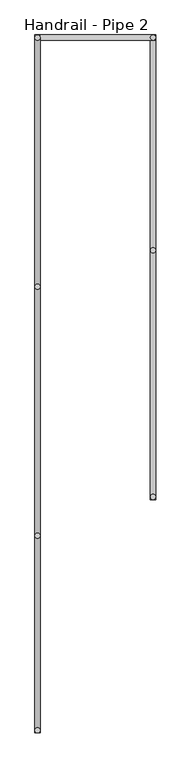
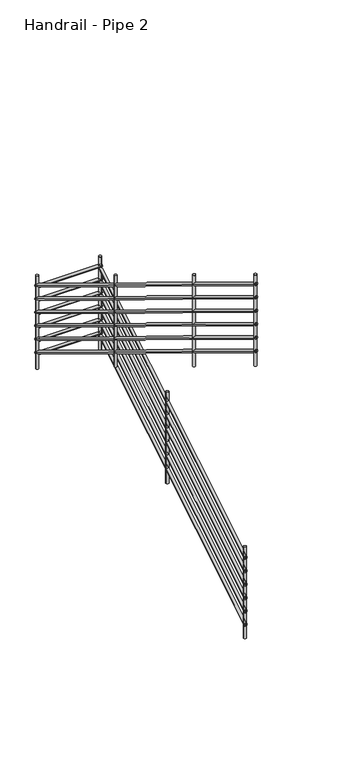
"""IFC4 building model written with IfcOpenShell, lengths in millimetres: railing geometry, Handrail - Pipe 2."""

from ifc_helpers import new_model, si_unit, point, frame, frame_2d, origin, place, context, project, spatial, circle_curve, ellipse_curve, trimmed, segment, composite_curve, outline, extrude, source, transform, mapped, element, save
from ifc_brep_helpers import plane_surface, cylinder_surface, advanced_brep


def handrail_pipe_2_0bb0e65d(model_context):
    return source(origin(), model_context, "Body", "SolidModel", [
        advanced_brep(
        [(2102.2818252, -71.8392054, 946.6982196), (2076.8818252, -71.8392054, 946.6982196), (2102.2818252, 2176.0607946, 2316.8467911), (2076.8818252, 2176.0607946, 2316.8467911)],
        [
            (0, 1, ellipse_curve(frame((2089.5818252, -71.8392054, 946.6982196), z_axis=(0.0, -1.0, 0.0), x_axis=(0.0, 0.0, -1.0)), 14.8732089, 12.7)),
            (1, 0, ellipse_curve(frame((2089.5818252, -71.8392054, 946.6982196), z_axis=(0.0, -1.0, 0.0), x_axis=(0.0, 0.0, -1.0)), 14.8732089, 12.7)),
            (2, 3, ellipse_curve(frame((2089.5818252, 2176.0607946, 2316.8467911), z_axis=(0.0, 1.0, 0.0), x_axis=(0.0, 0.0, -1.0)), 14.8732089, 12.7)),
            (3, 2, ellipse_curve(frame((2089.5818252, 2176.0607946, 2316.8467911), z_axis=(0.0, 1.0, 0.0), x_axis=(0.0, 0.0, -1.0)), 14.8732089, 12.7)),
            (0, 2),
            (3, 1),
        ],
        [
            plane_surface(frame((2089.5818252, -71.8392054, 961.5714286), z_axis=(0.0, -1.0, 0.0), x_axis=(0.0, 0.0, 1.0))),
            plane_surface(frame((2089.5818252, 2176.0607946, 2331.72), z_axis=(0.0, 1.0, 0.0), x_axis=(0.0, 0.0, 1.0))),
            cylinder_surface(frame((2089.5818252, -65.2293275, 950.7270976), z_axis=(0.0, -0.8538843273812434, -0.5204628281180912), x_axis=(-1.0, 0.0, 0.0)), 12.7),
        ],
        [
            (0, [[1, 2]]),
            (1, [[3, 4]]),
            (2, [[-1, 5, -4, 6]]),
            (2, [[-2, -6, -3, -5]]),
        ],
    ),
        advanced_brep(
        [(2102.2818252, 2201.4607946, 2342.2428571), (2102.2818252, 2176.0607946, 2342.2428571), (1536.7056157, 2201.4607946, 2342.2428571), (1536.7056157, 2176.0607946, 2342.2428571)],
        [
            (0, 1, circle_curve(frame((2102.2818252, 2188.7607946, 2342.2428571), z_axis=(1.0, 0.0, 0.0), x_axis=(0.0, -1.0, 0.0)), 12.7)),
            (1, 0, circle_curve(frame((2102.2818252, 2188.7607946, 2342.2428571), z_axis=(1.0, 0.0, 0.0), x_axis=(0.0, -1.0, 0.0)), 12.7)),
            (2, 3, circle_curve(frame((1536.7056157, 2188.7607946, 2342.2428571), z_axis=(-1.0, 0.0, 0.0), x_axis=(0.0, -1.0, 0.0)), 12.7)),
            (3, 2, circle_curve(frame((1536.7056157, 2188.7607946, 2342.2428571), z_axis=(-1.0, 0.0, 0.0), x_axis=(0.0, -1.0, 0.0)), 12.7)),
            (0, 2),
            (3, 1),
        ],
        [
            plane_surface(frame((2102.2818252, 2188.7607946, 2354.9428571), z_axis=(1.0, 0.0, 0.0), x_axis=(0.0, -1.0, 0.0))),
            plane_surface(frame((1536.7056157, 2188.7607946, 2354.9428571), z_axis=(-1.0, 0.0, 0.0), x_axis=(0.0, -1.0, 0.0))),
            cylinder_surface(frame((2102.2818252, 2188.7607946, 2342.2428571), z_axis=(1.0, 0.0, 0.0), x_axis=(0.0, -1.0, 0.0)), 12.7),
        ],
        [
            (0, [[1, 2]]),
            (1, [[3, 4]]),
            (2, [[-1, 5, -4, 6]]),
            (2, [[-2, -6, -3, -5]]),
        ],
    ),
        advanced_brep(
        [(1511.3056157, 2201.4607946, 2347.8106006), (1536.7056157, 2201.4607946, 2347.8106006), (1511.3056157, -1214.8392054, 4430.1267911), (1536.7056157, -1214.8392054, 4430.1267911)],
        [
            (0, 1, ellipse_curve(frame((1524.0056157, 2201.4607946, 2347.8106006), z_axis=(0.0, 1.0, 0.0), x_axis=(0.0, 0.0, -1.0)), 14.8732089, 12.7)),
            (1, 0, ellipse_curve(frame((1524.0056157, 2201.4607946, 2347.8106006), z_axis=(0.0, 1.0, 0.0), x_axis=(0.0, 0.0, -1.0)), 14.8732089, 12.7)),
            (2, 3, ellipse_curve(frame((1524.0056157, -1214.8392054, 4430.1267911), z_axis=(0.0, -1.0, 0.0), x_axis=(0.0, 0.0, -1.0)), 14.8732089, 12.7)),
            (3, 2, ellipse_curve(frame((1524.0056157, -1214.8392054, 4430.1267911), z_axis=(0.0, -1.0, 0.0), x_axis=(0.0, 0.0, -1.0)), 14.8732089, 12.7)),
            (0, 2),
            (3, 1),
        ],
        [
            plane_surface(frame((1524.0056157, 2201.4607946, 2362.6838095), z_axis=(0.0, 1.0, 0.0), x_axis=(0.0, 0.0, -1.0))),
            plane_surface(frame((1524.0056157, -1214.8392054, 4445.0), z_axis=(0.0, -1.0, 0.0), x_axis=(0.0, 0.0, -1.0))),
            cylinder_surface(frame((1524.0056157, 2194.8509167, 2351.8394786), z_axis=(0.0, 0.8538843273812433, -0.5204628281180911), x_axis=(1.0, 0.0, 0.0)), 12.7),
        ],
        [
            (0, [[1, 2]]),
            (1, [[3, 4]]),
            (2, [[-1, 5, -4, 6]]),
            (2, [[-2, -6, -3, -5]]),
        ],
    ),
        advanced_brep(
        [(2102.2818252, -71.8392054, 819.6982196), (2076.8818252, -71.8392054, 819.6982196), (2102.2818252, 2176.0607946, 2189.8467911), (2076.8818252, 2176.0607946, 2189.8467911)],
        [
            (0, 1, ellipse_curve(frame((2089.5818252, -71.8392054, 819.6982196), z_axis=(0.0, -1.0, 0.0), x_axis=(0.0, 0.0, -1.0)), 14.8732089, 12.7)),
            (1, 0, ellipse_curve(frame((2089.5818252, -71.8392054, 819.6982196), z_axis=(0.0, -1.0, 0.0), x_axis=(0.0, 0.0, -1.0)), 14.8732089, 12.7)),
            (2, 3, ellipse_curve(frame((2089.5818252, 2176.0607946, 2189.8467911), z_axis=(0.0, 1.0, 0.0), x_axis=(0.0, 0.0, -1.0)), 14.8732089, 12.7)),
            (3, 2, ellipse_curve(frame((2089.5818252, 2176.0607946, 2189.8467911), z_axis=(0.0, 1.0, 0.0), x_axis=(0.0, 0.0, -1.0)), 14.8732089, 12.7)),
            (0, 2),
            (3, 1),
        ],
        [
            plane_surface(frame((2089.5818252, -71.8392054, 834.5714286), z_axis=(0.0, -1.0, 0.0), x_axis=(0.0, 0.0, 1.0))),
            plane_surface(frame((2089.5818252, 2176.0607946, 2204.72), z_axis=(0.0, 1.0, 0.0), x_axis=(0.0, 0.0, 1.0))),
            cylinder_surface(frame((2089.5818252, -65.2293275, 823.7270976), z_axis=(0.0, -0.8538843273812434, -0.5204628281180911), x_axis=(-1.0, 0.0, 0.0)), 12.7),
        ],
        [
            (0, [[1, 2]]),
            (1, [[3, 4]]),
            (2, [[-1, 5, -4, 6]]),
            (2, [[-2, -6, -3, -5]]),
        ],
    ),
        advanced_brep(
        [(2102.2818252, 2201.4607946, 2215.2428571), (2102.2818252, 2176.0607946, 2215.2428571), (1536.7056157, 2201.4607946, 2215.2428571), (1536.7056157, 2176.0607946, 2215.2428571)],
        [
            (0, 1, circle_curve(frame((2102.2818252, 2188.7607946, 2215.2428571), z_axis=(1.0, 0.0, 0.0), x_axis=(0.0, -1.0, 0.0)), 12.7)),
            (1, 0, circle_curve(frame((2102.2818252, 2188.7607946, 2215.2428571), z_axis=(1.0, 0.0, 0.0), x_axis=(0.0, -1.0, 0.0)), 12.7)),
            (2, 3, circle_curve(frame((1536.7056157, 2188.7607946, 2215.2428571), z_axis=(-1.0, 0.0, 0.0), x_axis=(0.0, -1.0, 0.0)), 12.7)),
            (3, 2, circle_curve(frame((1536.7056157, 2188.7607946, 2215.2428571), z_axis=(-1.0, 0.0, 0.0), x_axis=(0.0, -1.0, 0.0)), 12.7)),
            (0, 2),
            (3, 1),
        ],
        [
            plane_surface(frame((2102.2818252, 2188.7607946, 2227.9428571), z_axis=(1.0, 0.0, 0.0), x_axis=(0.0, -1.0, 0.0))),
            plane_surface(frame((1536.7056157, 2188.7607946, 2227.9428571), z_axis=(-1.0, 0.0, 0.0), x_axis=(0.0, -1.0, 0.0))),
            cylinder_surface(frame((2102.2818252, 2188.7607946, 2215.2428571), z_axis=(1.0, 0.0, 0.0), x_axis=(0.0, -1.0, 0.0)), 12.7),
        ],
        [
            (0, [[1, 2]]),
            (1, [[3, 4]]),
            (2, [[-1, 5, -4, 6]]),
            (2, [[-2, -6, -3, -5]]),
        ],
    ),
        advanced_brep(
        [(1511.3056157, 2201.4607946, 2220.8106006), (1536.7056157, 2201.4607946, 2220.8106006), (1511.3056157, -1214.8392054, 4303.1267911), (1536.7056157, -1214.8392054, 4303.1267911)],
        [
            (0, 1, ellipse_curve(frame((1524.0056157, 2201.4607946, 2220.8106006), z_axis=(0.0, 1.0, 0.0), x_axis=(0.0, 0.0, -1.0)), 14.8732089, 12.7)),
            (1, 0, ellipse_curve(frame((1524.0056157, 2201.4607946, 2220.8106006), z_axis=(0.0, 1.0, 0.0), x_axis=(0.0, 0.0, -1.0)), 14.8732089, 12.7)),
            (2, 3, ellipse_curve(frame((1524.0056157, -1214.8392054, 4303.1267911), z_axis=(0.0, -1.0, 0.0), x_axis=(0.0, 0.0, -1.0)), 14.8732089, 12.7)),
            (3, 2, ellipse_curve(frame((1524.0056157, -1214.8392054, 4303.1267911), z_axis=(0.0, -1.0, 0.0), x_axis=(0.0, 0.0, -1.0)), 14.8732089, 12.7)),
            (0, 2),
            (3, 1),
        ],
        [
            plane_surface(frame((1524.0056157, 2201.4607946, 2235.6838095), z_axis=(0.0, 1.0, 0.0), x_axis=(0.0, 0.0, -1.0))),
            plane_surface(frame((1524.0056157, -1214.8392054, 4318.0), z_axis=(0.0, -1.0, 0.0), x_axis=(0.0, 0.0, -1.0))),
            cylinder_surface(frame((1524.0056157, 2194.8509167, 2224.8394786), z_axis=(0.0, 0.8538843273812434, -0.5204628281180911), x_axis=(1.0, 0.0, 0.0)), 12.7),
        ],
        [
            (0, [[1, 2]]),
            (1, [[3, 4]]),
            (2, [[-1, 5, -4, 6]]),
            (2, [[-2, -6, -3, -5]]),
        ],
    ),
        advanced_brep(
        [(2102.2818252, -71.8392054, 692.6982196), (2076.8818252, -71.8392054, 692.6982196), (2102.2818252, 2176.0607946, 2062.8467911), (2076.8818252, 2176.0607946, 2062.8467911)],
        [
            (0, 1, ellipse_curve(frame((2089.5818252, -71.8392054, 692.6982196), z_axis=(0.0, -1.0, 0.0), x_axis=(0.0, 0.0, -1.0)), 14.8732089, 12.7)),
            (1, 0, ellipse_curve(frame((2089.5818252, -71.8392054, 692.6982196), z_axis=(0.0, -1.0, 0.0), x_axis=(0.0, 0.0, -1.0)), 14.8732089, 12.7)),
            (2, 3, ellipse_curve(frame((2089.5818252, 2176.0607946, 2062.8467911), z_axis=(0.0, 1.0, 0.0), x_axis=(0.0, 0.0, -1.0)), 14.8732089, 12.7)),
            (3, 2, ellipse_curve(frame((2089.5818252, 2176.0607946, 2062.8467911), z_axis=(0.0, 1.0, 0.0), x_axis=(0.0, 0.0, -1.0)), 14.8732089, 12.7)),
            (0, 2),
            (3, 1),
        ],
        [
            plane_surface(frame((2089.5818252, -71.8392054, 707.5714286), z_axis=(0.0, -1.0, 0.0), x_axis=(0.0, 0.0, 1.0))),
            plane_surface(frame((2089.5818252, 2176.0607946, 2077.72), z_axis=(0.0, 1.0, 0.0), x_axis=(0.0, 0.0, 1.0))),
            cylinder_surface(frame((2089.5818252, -65.2293275, 696.7270976), z_axis=(0.0, -0.8538843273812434, -0.5204628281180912), x_axis=(-1.0, 0.0, 0.0)), 12.7),
        ],
        [
            (0, [[1, 2]]),
            (1, [[3, 4]]),
            (2, [[-1, 5, -4, 6]]),
            (2, [[-2, -6, -3, -5]]),
        ],
    ),
        advanced_brep(
        [(2102.2818252, 2201.4607946, 2088.2428571), (2102.2818252, 2176.0607946, 2088.2428571), (1536.7056157, 2201.4607946, 2088.2428571), (1536.7056157, 2176.0607946, 2088.2428571)],
        [
            (0, 1, circle_curve(frame((2102.2818252, 2188.7607946, 2088.2428571), z_axis=(1.0, 0.0, 0.0), x_axis=(0.0, -1.0, 0.0)), 12.7)),
            (1, 0, circle_curve(frame((2102.2818252, 2188.7607946, 2088.2428571), z_axis=(1.0, 0.0, 0.0), x_axis=(0.0, -1.0, 0.0)), 12.7)),
            (2, 3, circle_curve(frame((1536.7056157, 2188.7607946, 2088.2428571), z_axis=(-1.0, 0.0, 0.0), x_axis=(0.0, -1.0, 0.0)), 12.7)),
            (3, 2, circle_curve(frame((1536.7056157, 2188.7607946, 2088.2428571), z_axis=(-1.0, 0.0, 0.0), x_axis=(0.0, -1.0, 0.0)), 12.7)),
            (0, 2),
            (3, 1),
        ],
        [
            plane_surface(frame((2102.2818252, 2188.7607946, 2100.9428571), z_axis=(1.0, 0.0, 0.0), x_axis=(0.0, -1.0, 0.0))),
            plane_surface(frame((1536.7056157, 2188.7607946, 2100.9428571), z_axis=(-1.0, 0.0, 0.0), x_axis=(0.0, -1.0, 0.0))),
            cylinder_surface(frame((2102.2818252, 2188.7607946, 2088.2428571), z_axis=(1.0, 0.0, 0.0), x_axis=(0.0, -1.0, 0.0)), 12.7),
        ],
        [
            (0, [[1, 2]]),
            (1, [[3, 4]]),
            (2, [[-1, 5, -4, 6]]),
            (2, [[-2, -6, -3, -5]]),
        ],
    ),
        advanced_brep(
        [(1511.3056157, 2201.4607946, 2093.8106006), (1536.7056157, 2201.4607946, 2093.8106006), (1511.3056157, -1214.8392054, 4176.1267911), (1536.7056157, -1214.8392054, 4176.1267911)],
        [
            (0, 1, ellipse_curve(frame((1524.0056157, 2201.4607946, 2093.8106006), z_axis=(0.0, 1.0, 0.0), x_axis=(0.0, 0.0, -1.0)), 14.8732089, 12.7)),
            (1, 0, ellipse_curve(frame((1524.0056157, 2201.4607946, 2093.8106006), z_axis=(0.0, 1.0, 0.0), x_axis=(0.0, 0.0, -1.0)), 14.8732089, 12.7)),
            (2, 3, ellipse_curve(frame((1524.0056157, -1214.8392054, 4176.1267911), z_axis=(0.0, -1.0, 0.0), x_axis=(0.0, 0.0, -1.0)), 14.8732089, 12.7)),
            (3, 2, ellipse_curve(frame((1524.0056157, -1214.8392054, 4176.1267911), z_axis=(0.0, -1.0, 0.0), x_axis=(0.0, 0.0, -1.0)), 14.8732089, 12.7)),
            (0, 2),
            (3, 1),
        ],
        [
            plane_surface(frame((1524.0056157, 2201.4607946, 2108.6838095), z_axis=(0.0, 1.0, 0.0), x_axis=(0.0, 0.0, -1.0))),
            plane_surface(frame((1524.0056157, -1214.8392054, 4191.0), z_axis=(0.0, -1.0, 0.0), x_axis=(0.0, 0.0, -1.0))),
            cylinder_surface(frame((1524.0056157, 2194.8509167, 2097.8394786), z_axis=(0.0, 0.8538843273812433, -0.5204628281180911), x_axis=(1.0, 0.0, 0.0)), 12.7),
        ],
        [
            (0, [[1, 2]]),
            (1, [[3, 4]]),
            (2, [[-1, 5, -4, 6]]),
            (2, [[-2, -6, -3, -5]]),
        ],
    ),
        advanced_brep(
        [(2102.2818252, -71.8392054, 565.6982196), (2076.8818252, -71.8392054, 565.6982196), (2102.2818252, 2176.0607946, 1935.8467911), (2076.8818252, 2176.0607946, 1935.8467911)],
        [
            (0, 1, ellipse_curve(frame((2089.5818252, -71.8392054, 565.6982196), z_axis=(0.0, -1.0, 0.0), x_axis=(0.0, 0.0, -1.0)), 14.8732089, 12.7)),
            (1, 0, ellipse_curve(frame((2089.5818252, -71.8392054, 565.6982196), z_axis=(0.0, -1.0, 0.0), x_axis=(0.0, 0.0, -1.0)), 14.8732089, 12.7)),
            (2, 3, ellipse_curve(frame((2089.5818252, 2176.0607946, 1935.8467911), z_axis=(0.0, 1.0, 0.0), x_axis=(0.0, 0.0, -1.0)), 14.8732089, 12.7)),
            (3, 2, ellipse_curve(frame((2089.5818252, 2176.0607946, 1935.8467911), z_axis=(0.0, 1.0, 0.0), x_axis=(0.0, 0.0, -1.0)), 14.8732089, 12.7)),
            (0, 2),
            (3, 1),
        ],
        [
            plane_surface(frame((2089.5818252, -71.8392054, 580.5714286), z_axis=(0.0, -1.0, 0.0), x_axis=(0.0, 0.0, 1.0))),
            plane_surface(frame((2089.5818252, 2176.0607946, 1950.72), z_axis=(0.0, 1.0, 0.0), x_axis=(0.0, 0.0, 1.0))),
            cylinder_surface(frame((2089.5818252, -65.2293275, 569.7270976), z_axis=(0.0, -0.8538843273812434, -0.5204628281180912), x_axis=(-1.0, 0.0, 0.0)), 12.7),
        ],
        [
            (0, [[1, 2]]),
            (1, [[3, 4]]),
            (2, [[-1, 5, -4, 6]]),
            (2, [[-2, -6, -3, -5]]),
        ],
    ),
        advanced_brep(
        [(2102.2818252, 2201.4607946, 1961.2428571), (2102.2818252, 2176.0607946, 1961.2428571), (1536.7056157, 2201.4607946, 1961.2428571), (1536.7056157, 2176.0607946, 1961.2428571)],
        [
            (0, 1, circle_curve(frame((2102.2818252, 2188.7607946, 1961.2428571), z_axis=(1.0, 0.0, 0.0), x_axis=(0.0, -1.0, 0.0)), 12.7)),
            (1, 0, circle_curve(frame((2102.2818252, 2188.7607946, 1961.2428571), z_axis=(1.0, 0.0, 0.0), x_axis=(0.0, -1.0, 0.0)), 12.7)),
            (2, 3, circle_curve(frame((1536.7056157, 2188.7607946, 1961.2428571), z_axis=(-1.0, 0.0, 0.0), x_axis=(0.0, -1.0, 0.0)), 12.7)),
            (3, 2, circle_curve(frame((1536.7056157, 2188.7607946, 1961.2428571), z_axis=(-1.0, 0.0, 0.0), x_axis=(0.0, -1.0, 0.0)), 12.7)),
            (0, 2),
            (3, 1),
        ],
        [
            plane_surface(frame((2102.2818252, 2188.7607946, 1973.9428571), z_axis=(1.0, 0.0, 0.0), x_axis=(0.0, -1.0, 0.0))),
            plane_surface(frame((1536.7056157, 2188.7607946, 1973.9428571), z_axis=(-1.0, 0.0, 0.0), x_axis=(0.0, -1.0, 0.0))),
            cylinder_surface(frame((2102.2818252, 2188.7607946, 1961.2428571), z_axis=(1.0, 0.0, 0.0), x_axis=(0.0, -1.0, 0.0)), 12.7),
        ],
        [
            (0, [[1, 2]]),
            (1, [[3, 4]]),
            (2, [[-1, 5, -4, 6]]),
            (2, [[-2, -6, -3, -5]]),
        ],
    ),
        advanced_brep(
        [(1511.3056157, 2201.4607946, 1966.8106006), (1536.7056157, 2201.4607946, 1966.8106006), (1511.3056157, -1214.8392054, 4049.1267911), (1536.7056157, -1214.8392054, 4049.1267911)],
        [
            (0, 1, ellipse_curve(frame((1524.0056157, 2201.4607946, 1966.8106006), z_axis=(0.0, 1.0, 0.0), x_axis=(0.0, 0.0, -1.0)), 14.8732089, 12.7)),
            (1, 0, ellipse_curve(frame((1524.0056157, 2201.4607946, 1966.8106006), z_axis=(0.0, 1.0, 0.0), x_axis=(0.0, 0.0, -1.0)), 14.8732089, 12.7)),
            (2, 3, ellipse_curve(frame((1524.0056157, -1214.8392054, 4049.1267911), z_axis=(0.0, -1.0, 0.0), x_axis=(0.0, 0.0, -1.0)), 14.8732089, 12.7)),
            (3, 2, ellipse_curve(frame((1524.0056157, -1214.8392054, 4049.1267911), z_axis=(0.0, -1.0, 0.0), x_axis=(0.0, 0.0, -1.0)), 14.8732089, 12.7)),
            (0, 2),
            (3, 1),
        ],
        [
            plane_surface(frame((1524.0056157, 2201.4607946, 1981.6838095), z_axis=(0.0, 1.0, 0.0), x_axis=(0.0, 0.0, -1.0))),
            plane_surface(frame((1524.0056157, -1214.8392054, 4064.0), z_axis=(0.0, -1.0, 0.0), x_axis=(0.0, 0.0, -1.0))),
            cylinder_surface(frame((1524.0056157, 2194.8509167, 1970.8394786), z_axis=(0.0, 0.8538843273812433, -0.5204628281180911), x_axis=(1.0, 0.0, 0.0)), 12.7),
        ],
        [
            (0, [[1, 2]]),
            (1, [[3, 4]]),
            (2, [[-1, 5, -4, 6]]),
            (2, [[-2, -6, -3, -5]]),
        ],
    ),
        advanced_brep(
        [(2102.2818252, -71.8392054, 438.6982196), (2076.8818252, -71.8392054, 438.6982196), (2102.2818252, 2176.0607946, 1808.8467911), (2076.8818252, 2176.0607946, 1808.8467911)],
        [
            (0, 1, ellipse_curve(frame((2089.5818252, -71.8392054, 438.6982196), z_axis=(0.0, -1.0, 0.0), x_axis=(0.0, 0.0, -1.0)), 14.8732089, 12.7)),
            (1, 0, ellipse_curve(frame((2089.5818252, -71.8392054, 438.6982196), z_axis=(0.0, -1.0, 0.0), x_axis=(0.0, 0.0, -1.0)), 14.8732089, 12.7)),
            (2, 3, ellipse_curve(frame((2089.5818252, 2176.0607946, 1808.8467911), z_axis=(0.0, 1.0, 0.0), x_axis=(0.0, 0.0, -1.0)), 14.8732089, 12.7)),
            (3, 2, ellipse_curve(frame((2089.5818252, 2176.0607946, 1808.8467911), z_axis=(0.0, 1.0, 0.0), x_axis=(0.0, 0.0, -1.0)), 14.8732089, 12.7)),
            (0, 2),
            (3, 1),
        ],
        [
            plane_surface(frame((2089.5818252, -71.8392054, 453.5714286), z_axis=(0.0, -1.0, 0.0), x_axis=(0.0, 0.0, 1.0))),
            plane_surface(frame((2089.5818252, 2176.0607946, 1823.72), z_axis=(0.0, 1.0, 0.0), x_axis=(0.0, 0.0, 1.0))),
            cylinder_surface(frame((2089.5818252, -65.2293275, 442.7270976), z_axis=(0.0, -0.8538843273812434, -0.5204628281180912), x_axis=(-1.0, 0.0, 0.0)), 12.7),
        ],
        [
            (0, [[1, 2]]),
            (1, [[3, 4]]),
            (2, [[-1, 5, -4, 6]]),
            (2, [[-2, -6, -3, -5]]),
        ],
    ),
        advanced_brep(
        [(2102.2818252, 2201.4607946, 1834.2428571), (2102.2818252, 2176.0607946, 1834.2428571), (1536.7056157, 2201.4607946, 1834.2428571), (1536.7056157, 2176.0607946, 1834.2428571)],
        [
            (0, 1, circle_curve(frame((2102.2818252, 2188.7607946, 1834.2428571), z_axis=(1.0, 0.0, 0.0), x_axis=(0.0, -1.0, 0.0)), 12.7)),
            (1, 0, circle_curve(frame((2102.2818252, 2188.7607946, 1834.2428571), z_axis=(1.0, 0.0, 0.0), x_axis=(0.0, -1.0, 0.0)), 12.7)),
            (2, 3, circle_curve(frame((1536.7056157, 2188.7607946, 1834.2428571), z_axis=(-1.0, 0.0, 0.0), x_axis=(0.0, -1.0, 0.0)), 12.7)),
            (3, 2, circle_curve(frame((1536.7056157, 2188.7607946, 1834.2428571), z_axis=(-1.0, 0.0, 0.0), x_axis=(0.0, -1.0, 0.0)), 12.7)),
            (0, 2),
            (3, 1),
        ],
        [
            plane_surface(frame((2102.2818252, 2188.7607946, 1846.9428571), z_axis=(1.0, 0.0, 0.0), x_axis=(0.0, -1.0, 0.0))),
            plane_surface(frame((1536.7056157, 2188.7607946, 1846.9428571), z_axis=(-1.0, 0.0, 0.0), x_axis=(0.0, -1.0, 0.0))),
            cylinder_surface(frame((2102.2818252, 2188.7607946, 1834.2428571), z_axis=(1.0, 0.0, 0.0), x_axis=(0.0, -1.0, 0.0)), 12.7),
        ],
        [
            (0, [[1, 2]]),
            (1, [[3, 4]]),
            (2, [[-1, 5, -4, 6]]),
            (2, [[-2, -6, -3, -5]]),
        ],
    ),
        advanced_brep(
        [(1511.3056157, 2201.4607946, 1839.8106006), (1536.7056157, 2201.4607946, 1839.8106006), (1511.3056157, -1214.8392054, 3922.1267911), (1536.7056157, -1214.8392054, 3922.1267911)],
        [
            (0, 1, ellipse_curve(frame((1524.0056157, 2201.4607946, 1839.8106006), z_axis=(0.0, 1.0, 0.0), x_axis=(0.0, 0.0, -1.0)), 14.8732089, 12.7)),
            (1, 0, ellipse_curve(frame((1524.0056157, 2201.4607946, 1839.8106006), z_axis=(0.0, 1.0, 0.0), x_axis=(0.0, 0.0, -1.0)), 14.8732089, 12.7)),
            (2, 3, ellipse_curve(frame((1524.0056157, -1214.8392054, 3922.1267911), z_axis=(0.0, -1.0, 0.0), x_axis=(0.0, 0.0, -1.0)), 14.8732089, 12.7)),
            (3, 2, ellipse_curve(frame((1524.0056157, -1214.8392054, 3922.1267911), z_axis=(0.0, -1.0, 0.0), x_axis=(0.0, 0.0, -1.0)), 14.8732089, 12.7)),
            (0, 2),
            (3, 1),
        ],
        [
            plane_surface(frame((1524.0056157, 2201.4607946, 1854.6838095), z_axis=(0.0, 1.0, 0.0), x_axis=(0.0, 0.0, -1.0))),
            plane_surface(frame((1524.0056157, -1214.8392054, 3937.0), z_axis=(0.0, -1.0, 0.0), x_axis=(0.0, 0.0, -1.0))),
            cylinder_surface(frame((1524.0056157, 2194.8509167, 1843.8394786), z_axis=(0.0, 0.8538843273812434, -0.5204628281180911), x_axis=(1.0, 0.0, 0.0)), 12.7),
        ],
        [
            (0, [[1, 2]]),
            (1, [[3, 4]]),
            (2, [[-1, 5, -4, 6]]),
            (2, [[-2, -6, -3, -5]]),
        ],
    ),
        advanced_brep(
        [(2102.2818252, -71.8392054, 311.6982196), (2076.8818252, -71.8392054, 311.6982196), (2102.2818252, 2176.0607946, 1681.8467911), (2076.8818252, 2176.0607946, 1681.8467911)],
        [
            (0, 1, ellipse_curve(frame((2089.5818252, -71.8392054, 311.6982196), z_axis=(0.0, -1.0, 0.0), x_axis=(0.0, 0.0, -1.0)), 14.8732089, 12.7)),
            (1, 0, ellipse_curve(frame((2089.5818252, -71.8392054, 311.6982196), z_axis=(0.0, -1.0, 0.0), x_axis=(0.0, 0.0, -1.0)), 14.8732089, 12.7)),
            (2, 3, ellipse_curve(frame((2089.5818252, 2176.0607946, 1681.8467911), z_axis=(0.0, 1.0, 0.0), x_axis=(0.0, 0.0, -1.0)), 14.8732089, 12.7)),
            (3, 2, ellipse_curve(frame((2089.5818252, 2176.0607946, 1681.8467911), z_axis=(0.0, 1.0, 0.0), x_axis=(0.0, 0.0, -1.0)), 14.8732089, 12.7)),
            (0, 2),
            (3, 1),
        ],
        [
            plane_surface(frame((2089.5818252, -71.8392054, 326.5714286), z_axis=(0.0, -1.0, 0.0), x_axis=(0.0, 0.0, 1.0))),
            plane_surface(frame((2089.5818252, 2176.0607946, 1696.72), z_axis=(0.0, 1.0, 0.0), x_axis=(0.0, 0.0, 1.0))),
            cylinder_surface(frame((2089.5818252, -65.2293275, 315.7270976), z_axis=(0.0, -0.8538843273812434, -0.5204628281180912), x_axis=(-1.0, 0.0, 0.0)), 12.7),
        ],
        [
            (0, [[1, 2]]),
            (1, [[3, 4]]),
            (2, [[-1, 5, -4, 6]]),
            (2, [[-2, -6, -3, -5]]),
        ],
    ),
        advanced_brep(
        [(2102.2818252, 2201.4607946, 1707.2428571), (2102.2818252, 2176.0607946, 1707.2428571), (1536.7056157, 2201.4607946, 1707.2428571), (1536.7056157, 2176.0607946, 1707.2428571)],
        [
            (0, 1, circle_curve(frame((2102.2818252, 2188.7607946, 1707.2428571), z_axis=(1.0, 0.0, 0.0), x_axis=(0.0, -1.0, 0.0)), 12.7)),
            (1, 0, circle_curve(frame((2102.2818252, 2188.7607946, 1707.2428571), z_axis=(1.0, 0.0, 0.0), x_axis=(0.0, -1.0, 0.0)), 12.7)),
            (2, 3, circle_curve(frame((1536.7056157, 2188.7607946, 1707.2428571), z_axis=(-1.0, 0.0, 0.0), x_axis=(0.0, -1.0, 0.0)), 12.7)),
            (3, 2, circle_curve(frame((1536.7056157, 2188.7607946, 1707.2428571), z_axis=(-1.0, 0.0, 0.0), x_axis=(0.0, -1.0, 0.0)), 12.7)),
            (0, 2),
            (3, 1),
        ],
        [
            plane_surface(frame((2102.2818252, 2188.7607946, 1719.9428571), z_axis=(1.0, 0.0, 0.0), x_axis=(0.0, -1.0, 0.0))),
            plane_surface(frame((1536.7056157, 2188.7607946, 1719.9428571), z_axis=(-1.0, 0.0, 0.0), x_axis=(0.0, -1.0, 0.0))),
            cylinder_surface(frame((2102.2818252, 2188.7607946, 1707.2428571), z_axis=(1.0, 0.0, 0.0), x_axis=(0.0, -1.0, 0.0)), 12.7),
        ],
        [
            (0, [[1, 2]]),
            (1, [[3, 4]]),
            (2, [[-1, 5, -4, 6]]),
            (2, [[-2, -6, -3, -5]]),
        ],
    ),
        advanced_brep(
        [(1511.3056157, 2201.4607946, 1712.8106006), (1536.7056157, 2201.4607946, 1712.8106006), (1511.3056157, -1214.8392054, 3795.1267911), (1536.7056157, -1214.8392054, 3795.1267911)],
        [
            (0, 1, ellipse_curve(frame((1524.0056157, 2201.4607946, 1712.8106006), z_axis=(0.0, 1.0, 0.0), x_axis=(0.0, 0.0, -1.0)), 14.8732089, 12.7)),
            (1, 0, ellipse_curve(frame((1524.0056157, 2201.4607946, 1712.8106006), z_axis=(0.0, 1.0, 0.0), x_axis=(0.0, 0.0, -1.0)), 14.8732089, 12.7)),
            (2, 3, ellipse_curve(frame((1524.0056157, -1214.8392054, 3795.1267911), z_axis=(0.0, -1.0, 0.0), x_axis=(0.0, 0.0, -1.0)), 14.8732089, 12.7)),
            (3, 2, ellipse_curve(frame((1524.0056157, -1214.8392054, 3795.1267911), z_axis=(0.0, -1.0, 0.0), x_axis=(0.0, 0.0, -1.0)), 14.8732089, 12.7)),
            (0, 2),
            (3, 1),
        ],
        [
            plane_surface(frame((1524.0056157, 2201.4607946, 1727.6838095), z_axis=(0.0, 1.0, 0.0), x_axis=(0.0, 0.0, -1.0))),
            plane_surface(frame((1524.0056157, -1214.8392054, 3810.0), z_axis=(0.0, -1.0, 0.0), x_axis=(0.0, 0.0, -1.0))),
            cylinder_surface(frame((1524.0056157, 2194.8509167, 1716.8394786), z_axis=(0.0, 0.8538843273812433, -0.5204628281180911), x_axis=(1.0, 0.0, 0.0)), 12.7),
        ],
        [
            (0, [[1, 2]]),
            (1, [[3, 4]]),
            (2, [[-1, 5, -4, 6]]),
            (2, [[-2, -6, -3, -5]]),
        ],
    ),
        extrude(outline(composite_curve([segment(trimmed(circle_curve(frame_2d((1524.0056157, -249.6392054)), 12.7), [point((1511.3056157, -249.6392054))], [point((1536.7056157, -249.6392054))], False, "CARTESIAN"), True, "CONTINUOUS"), segment(trimmed(circle_curve(frame_2d((1524.0056157, -249.6392054)), 12.7), [point((1536.7056157, -249.6392054))], [point((1511.3056157, -249.6392054))], False, "CARTESIAN"), True, "CONTINUOUS")], self_intersect=False)), frame((0.0, 0.0, 3069.287619), z_axis=(0.0, 0.0, 1.0), x_axis=(1.0, 0.0, 0.0)), (0.0, 0.0, 1.0), 863.6),
        extrude(outline(composite_curve([segment(trimmed(circle_curve(frame_2d((1524.0056157, 969.5607946)), 12.7), [point((1511.3056157, 969.5607946))], [point((1536.7056157, 969.5607946))], False, "CARTESIAN"), True, "CONTINUOUS"), segment(trimmed(circle_curve(frame_2d((1524.0056157, 969.5607946)), 12.7), [point((1536.7056157, 969.5607946))], [point((1511.3056157, 969.5607946))], False, "CARTESIAN"), True, "CONTINUOUS")], self_intersect=False)), frame((0.0, 0.0, 2326.1561905), z_axis=(0.0, 0.0, 1.0), x_axis=(1.0, 0.0, 0.0)), (0.0, 0.0, 1.0), 863.6),
        extrude(outline(composite_curve([segment(trimmed(circle_curve(frame_2d((2089.5818252, 1147.3607946)), 12.7), [point((2102.2818252, 1147.3607946))], [point((2076.8818252, 1147.3607946))], False, "CARTESIAN"), True, "CONTINUOUS"), segment(trimmed(circle_curve(frame_2d((2089.5818252, 1147.3607946)), 12.7), [point((2076.8818252, 1147.3607946))], [point((2102.2818252, 1147.3607946))], False, "CARTESIAN"), True, "CONTINUOUS")], self_intersect=False)), frame((0.0, 0.0, 917.3028571), z_axis=(0.0, 0.0, 1.0), x_axis=(1.0, 0.0, 0.0)), (0.0, 0.0, 1.0), 863.6),
        extrude(outline(composite_curve([segment(trimmed(circle_curve(frame_2d((1524.0056157, 2188.7607946)), 12.7), [point((1511.3056157, 2188.7607946))], [point((1536.7056157, 2188.7607946))], False, "CARTESIAN"), True, "CONTINUOUS"), segment(trimmed(circle_curve(frame_2d((1524.0056157, 2188.7607946)), 12.7), [point((1536.7056157, 2188.7607946))], [point((1511.3056157, 2188.7607946))], False, "CARTESIAN"), True, "CONTINUOUS")], self_intersect=False)), frame((0.0, 0.0, 1567.5428571), z_axis=(0.0, 0.0, 1.0), x_axis=(1.0, 0.0, 0.0)), (0.0, 0.0, 1.0), 879.0819048),
        extrude(outline(composite_curve([segment(trimmed(circle_curve(frame_2d((2089.5818252, 2188.7607946)), 12.7), [point((2089.5818252, 2201.4607946))], [point((2089.5818252, 2176.0607946))], False, "CARTESIAN"), True, "CONTINUOUS"), segment(trimmed(circle_curve(frame_2d((2089.5818252, 2188.7607946)), 12.7), [point((2089.5818252, 2176.0607946))], [point((2089.5818252, 2201.4607946))], False, "CARTESIAN"), True, "CONTINUOUS")], self_intersect=False)), frame((0.0, 0.0, 1552.0609524), z_axis=(0.0, 0.0, 1.0), x_axis=(1.0, 0.0, 0.0)), (0.0, 0.0, 1.0), 879.0819048),
        extrude(outline(composite_curve([segment(trimmed(circle_curve(frame_2d((1524.0056157, -1202.1392054)), 12.7), [point((1511.3056157, -1202.1392054))], [point((1536.7056157, -1202.1392054))], False, "CARTESIAN"), True, "CONTINUOUS"), segment(trimmed(circle_curve(frame_2d((1524.0056157, -1202.1392054)), 12.7), [point((1536.7056157, -1202.1392054))], [point((1511.3056157, -1202.1392054))], False, "CARTESIAN"), True, "CONTINUOUS")], self_intersect=False)), frame((0.0, 0.0, 3649.8590476), z_axis=(0.0, 0.0, 1.0), x_axis=(1.0, 0.0, 0.0)), (0.0, 0.0, 1.0), 863.6),
        extrude(outline(composite_curve([segment(trimmed(circle_curve(frame_2d((2089.5818252, -59.1392054)), 12.7), [point((2102.2818252, -59.1392054))], [point((2076.8818252, -59.1392054))], False, "CARTESIAN"), True, "CONTINUOUS"), segment(trimmed(circle_curve(frame_2d((2089.5818252, -59.1392054)), 12.7), [point((2076.8818252, -59.1392054))], [point((2102.2818252, -59.1392054))], False, "CARTESIAN"), True, "CONTINUOUS")], self_intersect=False)), frame((0.0, 0.0, 181.912381), z_axis=(0.0, 0.0, 1.0), x_axis=(1.0, 0.0, 0.0)), (0.0, 0.0, 1.0), 863.6),
    ])


if __name__ == "__main__":
    model = new_model("IFC4")
    model_context = context("Model", 3, world=origin())
    ifc_project = project(units=[si_unit("LENGTHUNIT", "METRE", prefix="MILLI")], contexts=[model_context])
    site = spatial("IfcSite", under=ifc_project)
    building = spatial("IfcBuilding", under=site)
    placement = place(None, origin())
    handrail_pipe_2_shape = handrail_pipe_2_0bb0e65d(model_context)
    element("IfcRailing", 1, ObjectType="Handrail - Pipe 2", at=placement, inside=building, context=model_context, shape_type="MappedRepresentation", body=[
        mapped(handrail_pipe_2_shape, transform((0.0, 0.0, 0.0), x_axis=(1.0, 0.0, 0.0), y_axis=(0.0, 1.0, 0.0), z_axis=(0.0, 0.0, 1.0))),
    ])
    save(model, "model.ifc")
